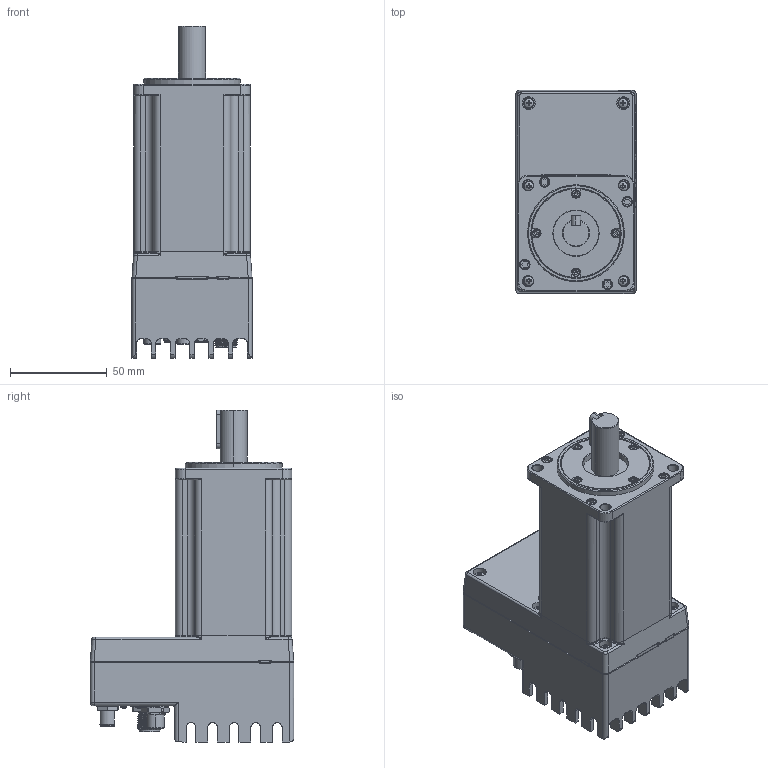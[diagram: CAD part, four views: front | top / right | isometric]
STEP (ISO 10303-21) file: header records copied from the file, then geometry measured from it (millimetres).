
FILE_DESCRIPTION (( 'STEP AP214' ), '1' );
FILE_NAME ('IM1-60MX3X5XX20B00.STEP', '2024-01-09T07:38:04', ( '' ), ( '' ), 'SwSTEP 2.0', 'SolidWorks 2020', '' );
FILE_SCHEMA (( 'AUTOMOTIVE_DESIGN' ));
Length unit declared in the file: millimetre
Products named in the file (1): IM1-60MX3X5XX20B00
Bounding box: 62 x 105 x 171.3 mm (x, y, z)
Surface area: 63783.6 mm2 (no closed solid volume)
Topology: 0 solids, 82 shells, 1098 faces, 4486 edges, 3444 vertices
Faces by surface type: plane 520, cylinder 360, cone 134, torus 37, bspline 35, sphere 12
Full cylindrical faces by diameter (mm): 0.5 x11, 1.5 x4, 1.6 x1, 6.6 x6, 7 x2, 9.9 x1, 10.7 x2, 11 x2, 14 x2, 20 x1
Entity records: 68583 total; most frequent: CARTESIAN_POINT 20572, ORIENTED_EDGE 7381, DIRECTION 7155, EDGE_CURVE 4404, VERTEX_POINT 3436, AXIS2_PLACEMENT_3D 2609, VECTOR 1937, LINE 1937
